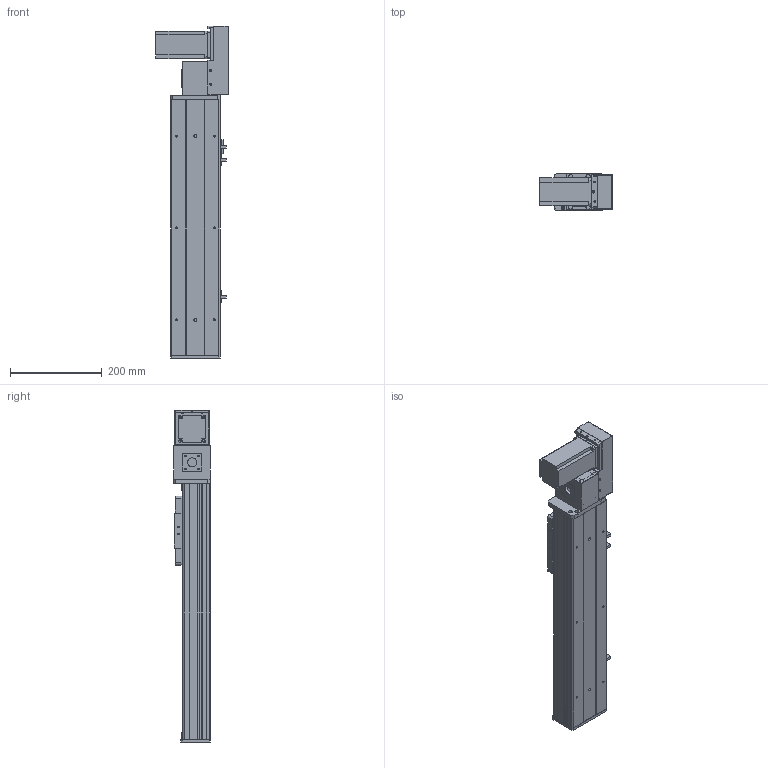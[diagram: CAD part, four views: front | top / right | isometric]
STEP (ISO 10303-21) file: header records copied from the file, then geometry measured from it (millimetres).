
FILE_DESCRIPTION (( 'STEP AP203' ), '1' );
FILE_NAME ('Y10CB-D90-S300-BR-P400W.STEP', '2020-02-16T01:33:23', ( '微软用户' ), ( '微软中国' ), 'SwSTEP 2.0', 'SolidWorks 2017', '' );
FILE_SCHEMA (( 'CONFIG_CONTROL_DESIGN' ));
Length unit declared in the file: millimetre
Products named in the file (18): Y10C---詩湍揤啣; Y10B-耜蚾蟀諉啣----; Y10B--々湍喘謫眊--666; 10CB9-掛极; 0B-萇儂楊擘啣; Y10CB-D90-S300-BR-P400W; 10CB-耜裔; san松下电机400不带刹车----; Y135C-陔俋离換覜結え-; 0B-源倛裔啣; Y100-135俋离換覜ん--; 0B-埴倛裔啣; Y俋欶BR----; 0CB-雄赽釱---; 10CB-詩湍-; 0Cb-俋欶---; Y10CB- 掛极耜裔啣-毀---; Y10B-々湍喘謫眊楊擘啣--
Assembly tree (21 placements, depth 2):
  Y10CB-D90-S300-BR-P400W
    0CB-雄赽釱---
    0Cb-俋欶---
    Y10B-々湍喘謫眊楊擘啣--
    Y10B-耜蚾蟀諉啣----
    0B-萇儂楊擘啣
    san松下电机400不带刹车----
    0B-源倛裔啣
    0B-埴倛裔啣
    Y俋欶BR----
    10CB-詩湍-
    Y10CB- 掛极耜裔啣-毀---  x2
    Y10C---詩湍揤啣  x2
    10CB9-掛极
    10CB-耜裔
    Y135C-陔俋离換覜結え-
    Y100-135俋离換覜ん--  x3
    Y10B--々湍喘謫眊--666
Bounding box: 157.5 x 80.5 x 722.5 mm (x, y, z)
Volume: 1915433 mm3; surface area: 796285.8 mm2
Topology: 21 solids, 21 shells, 942 faces, 2483 edges, 1634 vertices
Faces by surface type: plane 471, cylinder 447, cone 24
Entity records: 28904 total; most frequent: CARTESIAN_POINT 4877, DIRECTION 4722, ORIENTED_EDGE 4436, EDGE_CURVE 2218, AXIS2_PLACEMENT_3D 1689, VERTEX_POINT 1460, VECTOR 1344, LINE 1344
